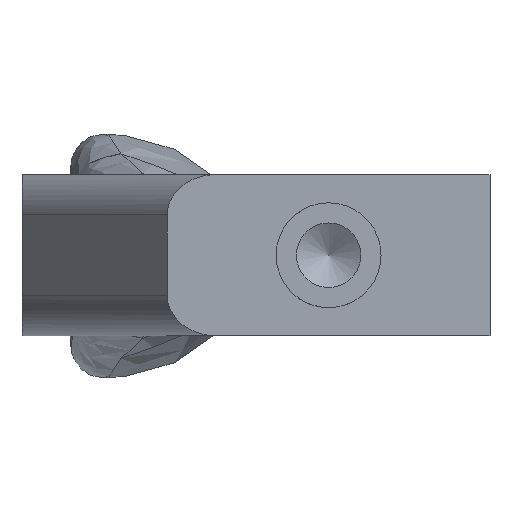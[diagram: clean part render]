
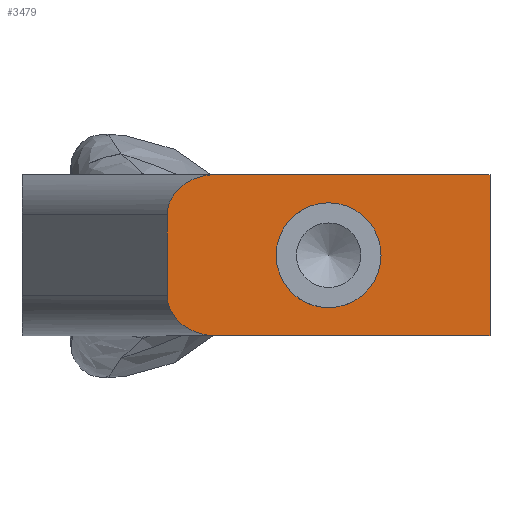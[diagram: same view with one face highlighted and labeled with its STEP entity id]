
A CAD part, left-side view. The second image highlights one B-rep face of the part: STEP entity #3479.
In plain terms, the highlighted planar face has unit normal (-1, 0, 0).
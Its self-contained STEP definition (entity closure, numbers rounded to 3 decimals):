
#162=ELLIPSE('',#3794,6.126,5.);
#163=ELLIPSE('',#3800,6.126,5.);
#177=FACE_BOUND('',#515,.T.);
#216=PLANE('',#3801);
#313=FACE_OUTER_BOUND('',#514,.T.);
#514=EDGE_LOOP('',(#2393,#2394,#2395,#2396,#2397,#2398));
#515=EDGE_LOOP('',(#2399));
#748=LINE('',#5158,#1029);
#755=LINE('',#5179,#1036);
#757=LINE('',#5191,#1038);
#758=LINE('',#5192,#1039);
#1029=VECTOR('',#4170,10.);
#1036=VECTOR('',#4189,10.);
#1038=VECTOR('',#4203,10.);
#1039=VECTOR('',#4204,10.);
#1308=CIRCLE('',#3802,6.5);
#1476=VERTEX_POINT('',#5155);
#1477=VERTEX_POINT('',#5157);
#1482=VERTEX_POINT('',#5169);
#1483=VERTEX_POINT('',#5170);
#1485=VERTEX_POINT('',#5177);
#1489=VERTEX_POINT('',#5187);
#1490=VERTEX_POINT('',#5193);
#1834=EDGE_CURVE('',#1477,#1476,#748,.T.);
#1840=EDGE_CURVE('',#1482,#1483,#162,.T.);
#1845=EDGE_CURVE('',#1482,#1485,#755,.T.);
#1850=EDGE_CURVE('',#1489,#1476,#163,.T.);
#1851=EDGE_CURVE('',#1485,#1477,#757,.T.);
#1852=EDGE_CURVE('',#1483,#1489,#758,.T.);
#1853=EDGE_CURVE('',#1490,#1490,#1308,.T.);
#2393=ORIENTED_EDGE('',*,*,#1840,.F.);
#2394=ORIENTED_EDGE('',*,*,#1845,.T.);
#2395=ORIENTED_EDGE('',*,*,#1851,.T.);
#2396=ORIENTED_EDGE('',*,*,#1834,.T.);
#2397=ORIENTED_EDGE('',*,*,#1850,.F.);
#2398=ORIENTED_EDGE('',*,*,#1852,.F.);
#2399=ORIENTED_EDGE('',*,*,#1853,.T.);
#3479=ADVANCED_FACE('',(#313,#177),#216,.T.);
#3794=AXIS2_PLACEMENT_3D('',#5171,#4181,#4182);
#3800=AXIS2_PLACEMENT_3D('',#5189,#4199,#4200);
#3801=AXIS2_PLACEMENT_3D('',#5190,#4201,#4202);
#3802=AXIS2_PLACEMENT_3D('',#5194,#4205,#4206);
#4170=DIRECTION('',(0.,1.,0.));
#4181=DIRECTION('center_axis',(1.,0.,0.));
#4182=DIRECTION('ref_axis',(0.,1.,0.));
#4189=DIRECTION('',(0.,-1.,0.));
#4199=DIRECTION('center_axis',(1.,0.,0.));
#4200=DIRECTION('ref_axis',(0.,1.,0.));
#4201=DIRECTION('center_axis',(-1.,0.,0.));
#4202=DIRECTION('ref_axis',(0.,0.,1.));
#4203=DIRECTION('',(0.,0.,1.));
#4204=DIRECTION('',(0.,0.,1.));
#4205=DIRECTION('center_axis',(1.,0.,0.));
#4206=DIRECTION('ref_axis',(0.,0.,1.));
#5155=CARTESIAN_POINT('',(-34.589,8.809,20.));
#5157=CARTESIAN_POINT('',(-34.589,-25.065,20.));
#5158=CARTESIAN_POINT('',(-34.589,14.935,20.));
#5169=CARTESIAN_POINT('',(-34.589,8.809,0.));
#5170=CARTESIAN_POINT('',(-34.589,14.935,5.));
#5171=CARTESIAN_POINT('Origin',(-34.589,8.809,5.));
#5177=CARTESIAN_POINT('',(-34.589,-25.065,0.));
#5179=CARTESIAN_POINT('',(-34.589,14.935,0.));
#5187=CARTESIAN_POINT('',(-34.589,14.935,15.));
#5189=CARTESIAN_POINT('Origin',(-34.589,8.809,15.));
#5190=CARTESIAN_POINT('Origin',(-34.589,-25.065,0.));
#5191=CARTESIAN_POINT('',(-34.589,-25.065,0.));
#5192=CARTESIAN_POINT('',(-34.589,14.935,0.));
#5193=CARTESIAN_POINT('',(-34.589,-5.065,3.5));
#5194=CARTESIAN_POINT('Origin',(-34.589,-5.065,10.));
